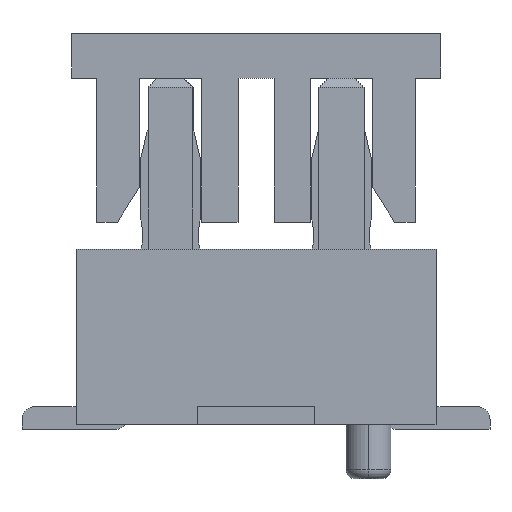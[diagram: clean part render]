
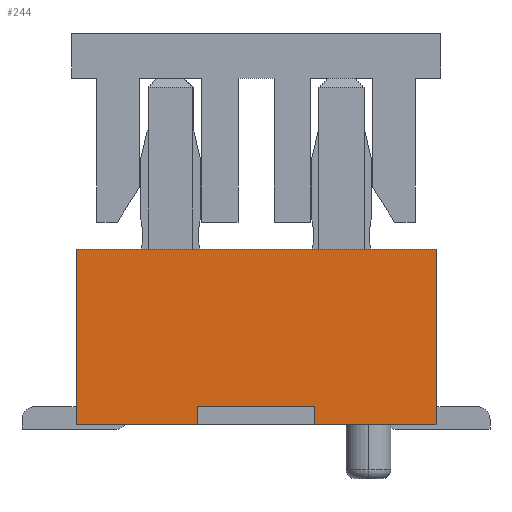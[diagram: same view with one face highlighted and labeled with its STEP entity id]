
A CAD part, left-side view. The second image highlights one B-rep face of the part: STEP entity #244.
In plain terms, the highlighted planar face has unit normal (-1, 0, 0).
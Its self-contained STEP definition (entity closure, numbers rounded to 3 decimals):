
#173=CARTESIAN_POINT('Axis2P3D Location',(-4.1,0.,0.)) ;
#178=CARTESIAN_POINT('Line Origine',(-4.1,0.65,0.1)) ;
#182=CARTESIAN_POINT('Vertex',(-4.1,0.65,0.)) ;
#184=CARTESIAN_POINT('Vertex',(-4.1,0.65,0.2)) ;
#187=CARTESIAN_POINT('Line Origine',(-4.1,0.,0.2)) ;
#191=CARTESIAN_POINT('Vertex',(-4.1,-0.65,0.2)) ;
#194=CARTESIAN_POINT('Line Origine',(-4.1,-0.65,0.1)) ;
#198=CARTESIAN_POINT('Vertex',(-4.1,-0.65,0.)) ;
#201=CARTESIAN_POINT('Line Origine',(-4.1,-1.325,0.)) ;
#205=CARTESIAN_POINT('Vertex',(-4.1,-2.,0.)) ;
#208=CARTESIAN_POINT('Line Origine',(-4.1,-2.,0.975)) ;
#212=CARTESIAN_POINT('Vertex',(-4.1,-2.,1.95)) ;
#215=CARTESIAN_POINT('Line Origine',(-4.1,0.,1.95)) ;
#219=CARTESIAN_POINT('Vertex',(-4.1,2.,1.95)) ;
#222=CARTESIAN_POINT('Line Origine',(-4.1,2.,0.975)) ;
#226=CARTESIAN_POINT('Vertex',(-4.1,2.,0.)) ;
#229=CARTESIAN_POINT('Line Origine',(-4.1,1.325,0.)) ;
#174=DIRECTION('Axis2P3D Direction',(1.,0.,0.)) ;
#175=DIRECTION('Axis2P3D XDirection',(0.,1.,0.)) ;
#179=DIRECTION('Vector Direction',(0.,0.,1.)) ;
#188=DIRECTION('Vector Direction',(0.,1.,0.)) ;
#195=DIRECTION('Vector Direction',(0.,0.,1.)) ;
#202=DIRECTION('Vector Direction',(0.,1.,0.)) ;
#209=DIRECTION('Vector Direction',(0.,0.,-1.)) ;
#216=DIRECTION('Vector Direction',(0.,1.,0.)) ;
#223=DIRECTION('Vector Direction',(0.,0.,-1.)) ;
#230=DIRECTION('Vector Direction',(0.,1.,0.)) ;
#176=AXIS2_PLACEMENT_3D('Plane Axis2P3D',#173,#174,#175) ;
#235=ORIENTED_EDGE('',*,*,#186,.T.) ;
#236=ORIENTED_EDGE('',*,*,#193,.F.) ;
#237=ORIENTED_EDGE('',*,*,#200,.F.) ;
#238=ORIENTED_EDGE('',*,*,#207,.F.) ;
#239=ORIENTED_EDGE('',*,*,#214,.F.) ;
#240=ORIENTED_EDGE('',*,*,#221,.F.) ;
#241=ORIENTED_EDGE('',*,*,#228,.F.) ;
#242=ORIENTED_EDGE('',*,*,#233,.F.) ;
#180=VECTOR('Line Direction',#179,1.) ;
#189=VECTOR('Line Direction',#188,1.) ;
#196=VECTOR('Line Direction',#195,1.) ;
#203=VECTOR('Line Direction',#202,1.) ;
#210=VECTOR('Line Direction',#209,1.) ;
#217=VECTOR('Line Direction',#216,1.) ;
#224=VECTOR('Line Direction',#223,1.) ;
#231=VECTOR('Line Direction',#230,1.) ;
#244=ADVANCED_FACE('\X2\96F64EF651E04F554F53\X0\',(#243),#177,.F.) ;
#186=EDGE_CURVE('',#183,#185,#181,.T.) ;
#193=EDGE_CURVE('',#192,#185,#190,.T.) ;
#200=EDGE_CURVE('',#199,#192,#197,.T.) ;
#207=EDGE_CURVE('',#206,#199,#204,.T.) ;
#214=EDGE_CURVE('',#213,#206,#211,.T.) ;
#221=EDGE_CURVE('',#220,#213,#218,.F.) ;
#228=EDGE_CURVE('',#227,#220,#225,.F.) ;
#233=EDGE_CURVE('',#183,#227,#232,.T.) ;
#234=EDGE_LOOP('',(#235,#236,#237,#238,#239,#240,#241,#242)) ;
#243=FACE_OUTER_BOUND('',#234,.T.) ;
#181=LINE('Line',#178,#180) ;
#190=LINE('Line',#187,#189) ;
#197=LINE('Line',#194,#196) ;
#204=LINE('Line',#201,#203) ;
#211=LINE('Line',#208,#210) ;
#218=LINE('Line',#215,#217) ;
#225=LINE('Line',#222,#224) ;
#232=LINE('Line',#229,#231) ;
#177=PLANE('Plane',#176) ;
#183=VERTEX_POINT('',#182) ;
#185=VERTEX_POINT('',#184) ;
#192=VERTEX_POINT('',#191) ;
#199=VERTEX_POINT('',#198) ;
#206=VERTEX_POINT('',#205) ;
#213=VERTEX_POINT('',#212) ;
#220=VERTEX_POINT('',#219) ;
#227=VERTEX_POINT('',#226) ;
